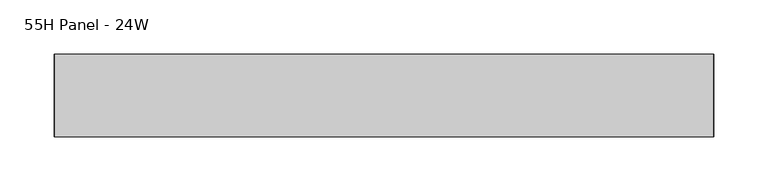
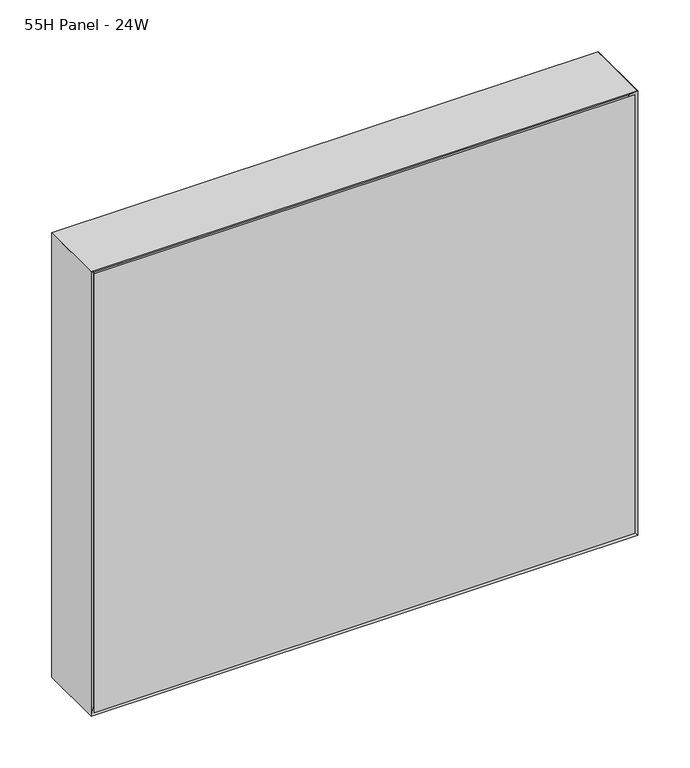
"""IFC4 building model written with IfcOpenShell, lengths in millimetres: furniture geometry, Steelcase - Montage - Frame - 20H - Enhanced Standard - Single Stack-On : 55H Panel - 24W."""

from ifc_helpers import new_model, si_unit, frame, origin, place, context, project, spatial, polyline, outline, extrude, faceted_brep, source, transform, mapped, element, save


def furniture_55h_panel_24w_ebb1f72d(model_context):
    return source(origin(), model_context, "Body", "SolidModel", [
        faceted_brep([(600.0750027, 31.7500194, 1912.9374516), (9.5250028, 31.7500194, 1912.9374516), (9.5250028, 31.7500194, 1408.1125), (600.0750027, 31.7500194, 1408.1125), (606.425, 38.1000194, 1919.2874516), (606.425, 38.1000194, 1401.7625), (3.175, 38.1000194, 1401.7625), (3.175, 38.1000194, 1919.2874516)], [[[0, 1, 2, 3]], [[4, 5, 6, 7]], [[4, 0, 3, 5]], [[5, 3, 2, 6]], [[6, 2, 1, 7]], [[7, 1, 0, 4]]]),
        faceted_brep([(600.0750027, -31.7500194, 1912.9374516), (600.0750027, -31.7500194, 1408.1125), (9.5250028, -31.7500194, 1408.1125), (9.5250028, -31.7500194, 1912.9374516), (606.425, -38.1000194, 1919.2874516), (3.175, -38.1000194, 1919.2874516), (3.175, -38.1000194, 1401.7625), (606.425, -38.1000194, 1401.7625)], [[[0, 1, 2, 3]], [[4, 5, 6, 7]], [[4, 7, 1, 0]], [[7, 6, 2, 1]], [[6, 5, 3, 2]], [[5, 4, 0, 3]]]),
        faceted_brep([(609.6, -38.1000015, 1398.5875), (609.6, 38.1000015, 1398.5875), (609.6, 38.1000015, 1922.4624516), (609.6, -38.1000106, 1922.4624515), (0.0, 38.1000015, 1398.5875), (0.0, -38.1000015, 1398.5875), (0.0, -38.1000015, 1922.4624516), (0.0, 38.1000015, 1922.4624516), (6.3500484, 31.749953, 1404.9375484), (603.2499879, 31.749953, 1404.9375484), (6.35, -31.749953, 1404.9375484), (603.2499879, -31.749953, 1404.9375484), (6.3500165, 31.749985, 1916.112435), (6.3500006, -31.7500009, 1916.1124031), (603.2499879, -31.7499979, 1916.1124031), (603.2499879, 31.7499889, 1916.1124394)], [[[0, 1, 2, 3]], [[4, 5, 6, 7]], [[1, 0, 5, 4]], [[1, 4, 8, 9]], [[9, 8, 10, 11]], [[5, 0, 11, 10]], [[4, 7, 12, 8]], [[6, 5, 10, 13]], [[10, 8, 12, 13]], [[9, 11, 14, 15]], [[0, 3, 14, 11]], [[2, 1, 9, 15]], [[3, 2, 15, 14]], [[7, 6, 13, 12]]]),
        faceted_brep([(609.6, -38.1000015, 1922.4624516), (0.0, -38.1000015, 1922.4624516), (6.3500484, -31.749953, 1916.1124031), (603.2499516, -31.749953, 1916.1124031), (6.3500484, 31.749953, 1916.1124031), (603.2499516, 31.749953, 1916.1124031), (0.0, 38.1000015, 1922.4624516), (609.6, 38.1000015, 1922.4624516)], [[[0, 1, 2, 3]], [[3, 2, 4, 5]], [[6, 7, 5, 4]], [[1, 0, 7, 6]], [[2, 1, 6, 4]], [[0, 3, 5, 7]]]),
        extrude(outline(polyline([(603.2499879, 31.7500016), (603.2499879, -31.7499985), (6.35, -31.7499985), (6.35, 31.7500016), (603.2499879, 31.7500016)])), frame((0.0, 0.0, 1404.9327145), z_axis=(0.0, 0.0, 1.0), x_axis=(1.0, 0.0, 0.0)), (0.0, 0.0, 1.0), 511.1796886),
    ])


if __name__ == "__main__":
    model = new_model("IFC4")
    model_context = context("Model", 3, world=origin())
    ifc_project = project(units=[si_unit("LENGTHUNIT", "METRE", prefix="MILLI")], contexts=[model_context])
    site = spatial("IfcSite", under=ifc_project)
    building = spatial("IfcBuilding", under=site)
    placement = place(None, origin())
    furniture_55h_panel_24w_shape = furniture_55h_panel_24w_ebb1f72d(model_context)
    element("IfcFurniture", 1, ObjectType="Steelcase - Montage - Frame - 20H - Enhanced Standard - Single Stack-On : 55H Panel - 24W", at=placement, inside=building, context=model_context, shape_type="MappedRepresentation", body=[
        mapped(furniture_55h_panel_24w_shape, transform((0.0, 0.0, 0.0), x_axis=(1.0, 0.0, 0.0), y_axis=(0.0, 1.0, 0.0), z_axis=(0.0, 0.0, 1.0))),
    ])
    save(model, "model.ifc")
